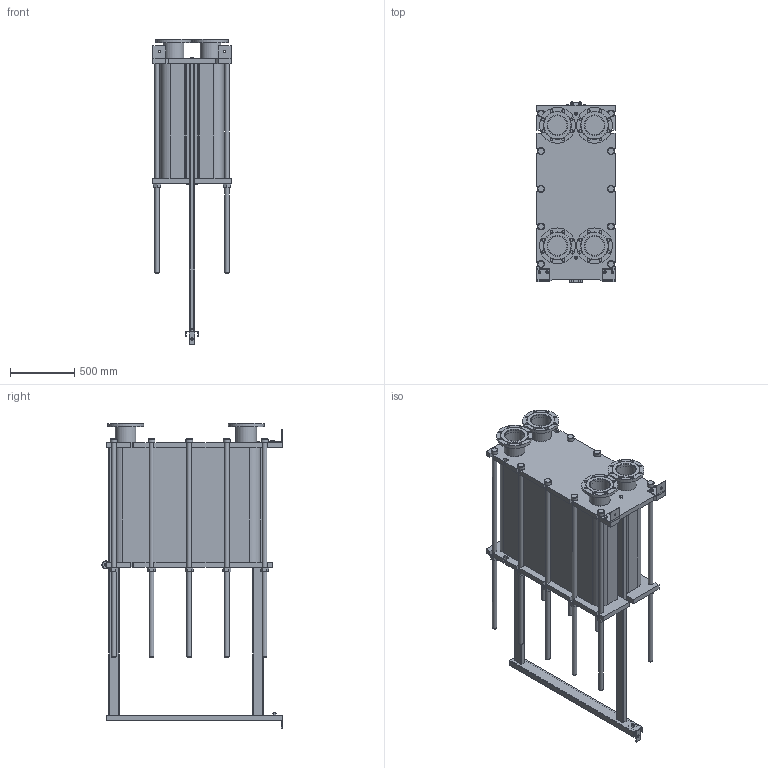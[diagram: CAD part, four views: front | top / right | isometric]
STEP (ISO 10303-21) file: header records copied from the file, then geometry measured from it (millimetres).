
FILE_DESCRIPTION(/* description */ (''),/* implementation_level */ '2;1');
FILE_NAME(/* name */ 'C:\Users\zhuro\Desktop\ENCO\TO\ЭН-041\ЭН-0,5-041-259-1.stp',/* time_stamp */ '2022-06-06T11:10:31+03:00',/* author */ ('zhuro'),/* organization */ (''),/* preprocessor_version */ 'ST-DEVELOPER v18.1',/* originating_system */ 'Autodesk Inventor 2022',/* authorisation */ '');
FILE_SCHEMA (('AUTOMOTIVE_DESIGN { 1 0 10303 214 3 1 1 }'));
Length unit declared in the file: millimetre
Products named in the file (1): ЭН-0,5-041-259-1
Bounding box: 610 x 1406.5 x 2382.5 mm (x, y, z)
Volume: 594212319.2 mm3; surface area: 12530330.7 mm2
Topology: 52 solids, 52 shells, 711 faces, 1696 edges, 1094 vertices
Faces by surface type: plane 487, cylinder 177, cone 41, torus 6
Full cylindrical faces by diameter (mm): 8 x4, 10 x2, 16 x8, 18 x3, 22 x32, 36 x24, 50 x1, 54 x10, 60 x12, 151 x4, 161 x8, 280 x4
Entity records: 22667 total; most frequent: CARTESIAN_POINT 5230, DIRECTION 3644, ORIENTED_EDGE 3392, EDGE_CURVE 1696, AXIS2_PLACEMENT_3D 1272, LINE 1100, VECTOR 1100, VERTEX_POINT 1094
